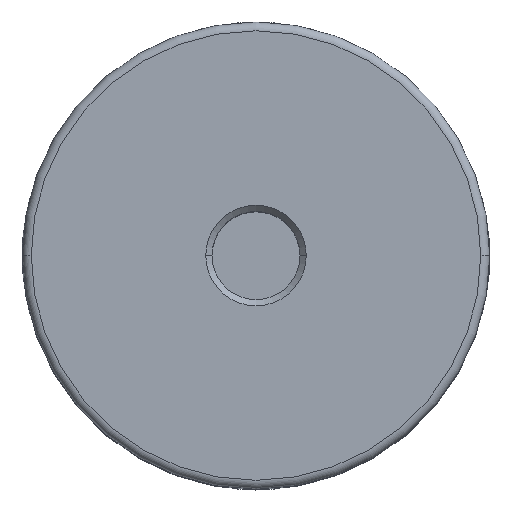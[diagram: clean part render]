
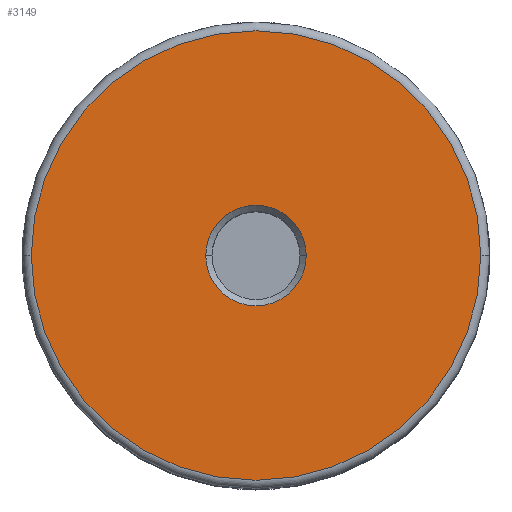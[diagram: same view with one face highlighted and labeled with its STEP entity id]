
A CAD part, top view. The second image highlights one B-rep face of the part: STEP entity #3149.
In plain terms, the highlighted planar face has unit normal (0, 0, 1).
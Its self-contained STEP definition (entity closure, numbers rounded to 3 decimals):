
#191 = EDGE_CURVE ( 'NONE', #4276, #4338, #5670, .T. ) ;
#192 = EDGE_CURVE ( 'NONE', #4629, #4252, #5678, .T. ) ;
#522 = EDGE_CURVE ( 'NONE', #4338, #4276, #2802, .T. ) ;
#635 = ORIENTED_EDGE ( 'NONE', *, *, #192, .T. ) ;
#636 = ORIENTED_EDGE ( 'NONE', *, *, #1510, .T. ) ;
#864 = ORIENTED_EDGE ( 'NONE', *, *, #522, .T. ) ;
#885 = ORIENTED_EDGE ( 'NONE', *, *, #191, .T. ) ;
#981 = CARTESIAN_POINT ( 'NONE',  ( 0., 0., 29.15 ) ) ;
#987 = PLANE ( 'NONE',  #1758 ) ;
#989 = DIRECTION ( 'NONE',  ( 0., 0., -1. ) ) ;
#990 = DIRECTION ( 'NONE',  ( -1., 0., 0. ) ) ;
#1510 = EDGE_CURVE ( 'NONE', #4252, #4629, #2816, .T. ) ;
#1630 = AXIS2_PLACEMENT_3D ( 'NONE', #3410, #3409, #3408 ) ;
#1631 = AXIS2_PLACEMENT_3D ( 'NONE', #3406, #3354, #3405 ) ;
#1691 = AXIS2_PLACEMENT_3D ( 'NONE', #6409, #6410, #6411 ) ;
#1697 = AXIS2_PLACEMENT_3D ( 'NONE', #2134, #2135, #2136 ) ;
#1758 = AXIS2_PLACEMENT_3D ( 'NONE', #981, #989, #990 ) ;
#2134 = CARTESIAN_POINT ( 'NONE',  ( 0., 0., 29.15 ) ) ;
#2135 = DIRECTION ( 'NONE',  ( 0., 0., -1. ) ) ;
#2136 = DIRECTION ( 'NONE',  ( -1., 0., 0. ) ) ;
#2802 = CIRCLE ( 'NONE', #1691, 25.5 ) ;
#2816 = CIRCLE ( 'NONE', #1697, 5.7 ) ;
#2956 = FACE_OUTER_BOUND ( 'NONE', #5452, .T. ) ;
#2963 = FACE_BOUND ( 'NONE', #5441, .T. ) ;
#3149 = ADVANCED_FACE ( 'NONE', ( #2963, #2956 ), #987, .F. ) ;
#3354 = DIRECTION ( 'NONE',  ( 0., 0., -1. ) ) ;
#3405 = DIRECTION ( 'NONE',  ( -1., 0., 0. ) ) ;
#3406 = CARTESIAN_POINT ( 'NONE',  ( 0., 0., 29.15 ) ) ;
#3408 = DIRECTION ( 'NONE',  ( -1., 0., 0. ) ) ;
#3409 = DIRECTION ( 'NONE',  ( 0., 0., 1. ) ) ;
#3410 = CARTESIAN_POINT ( 'NONE',  ( 0., 0., 29.15 ) ) ;
#4252 = VERTEX_POINT ( 'NONE', #6815 ) ;
#4276 = VERTEX_POINT ( 'NONE', #6840 ) ;
#4338 = VERTEX_POINT ( 'NONE', #6886 ) ;
#4629 = VERTEX_POINT ( 'NONE', #6948 ) ;
#5441 = EDGE_LOOP ( 'NONE', ( #636, #635 ) ) ;
#5452 = EDGE_LOOP ( 'NONE', ( #885, #864 ) ) ;
#5670 = CIRCLE ( 'NONE', #1630, 25.5 ) ;
#5678 = CIRCLE ( 'NONE', #1631, 5.7 ) ;
#6409 = CARTESIAN_POINT ( 'NONE',  ( 0., 0., 29.15 ) ) ;
#6410 = DIRECTION ( 'NONE',  ( 0., 0., 1. ) ) ;
#6411 = DIRECTION ( 'NONE',  ( -1., 0., 0. ) ) ;
#6815 = CARTESIAN_POINT ( 'NONE',  ( 5.7, 0., 29.15 ) ) ;
#6840 = CARTESIAN_POINT ( 'NONE',  ( -25.5, 0., 29.15 ) ) ;
#6886 = CARTESIAN_POINT ( 'NONE',  ( 25.5, 0., 29.15 ) ) ;
#6948 = CARTESIAN_POINT ( 'NONE',  ( -5.7, 0., 29.15 ) ) ;
